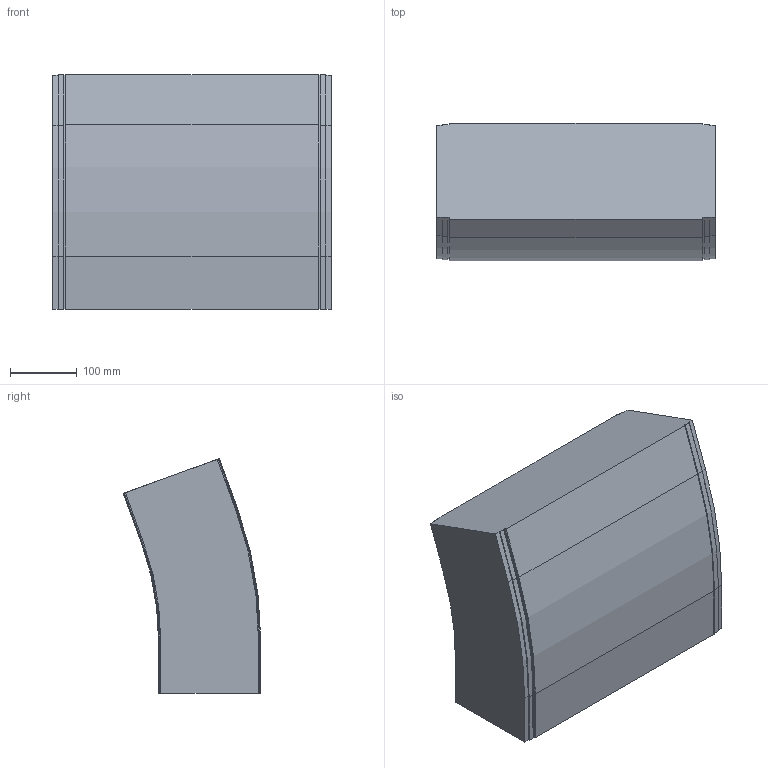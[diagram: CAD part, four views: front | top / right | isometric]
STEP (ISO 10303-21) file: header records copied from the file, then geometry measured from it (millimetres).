
FILE_DESCRIPTION (( 'STEP AP214' ), '1' );
FILE_NAME ('F2 1500 CV500 x.step', '2017-04-05T06:47:58', ( '' ), ( '' ), 'SwSTEP 2.0', 'SolidWorks 2015', '' );
FILE_SCHEMA (( 'AUTOMOTIVE_DESIGN' ));
Length unit declared in the file: millimetre
Products named in the file (1): F2 1500 CV500 x
Bounding box: 418 x 206.29 x 352.42 mm (x, y, z)
Volume: 21387690.7 mm3; surface area: 511603.1 mm2
Topology: 1 solids, 1 shells, 70 faces, 196 edges, 128 vertices
Faces by surface type: plane 44, cylinder 22, torus 4
Entity records: 3048 total; most frequent: CARTESIAN_POINT 395, ORIENTED_EDGE 392, DIRECTION 386, EDGE_CURVE 196, LINE 148, VECTOR 148, VERTEX_POINT 128, AXIS2_PLACEMENT_3D 119
